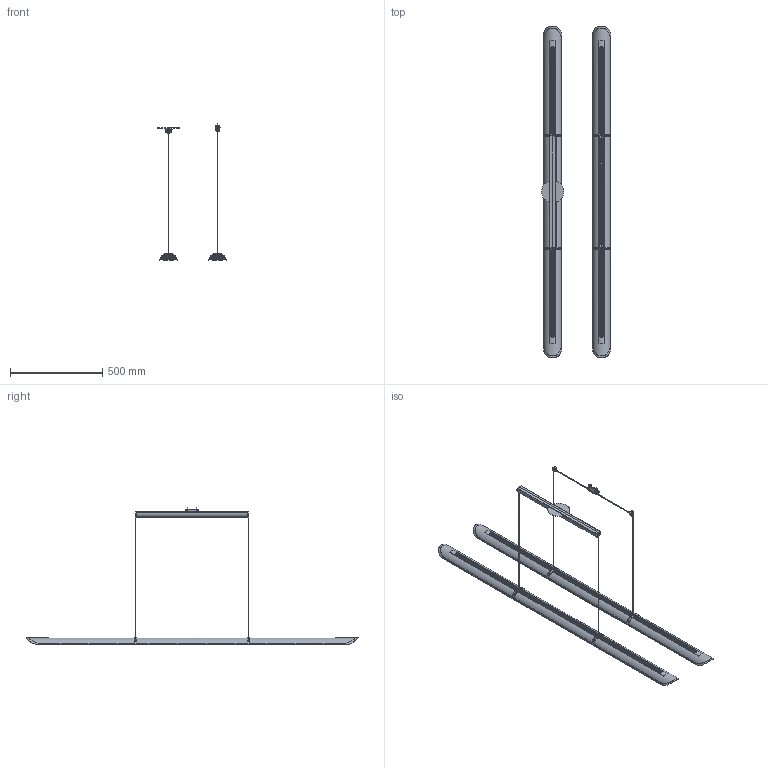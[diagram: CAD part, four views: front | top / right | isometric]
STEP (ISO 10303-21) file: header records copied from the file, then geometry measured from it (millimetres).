
FILE_DESCRIPTION(/* description */ (''),/* implementation_level */ '2;1');
FILE_NAME(/* name */ 'lani18',/* time_stamp */ '2025-09-01T10:36:18-03:00',/* author */ (''),/* organization */ (''),/* preprocessor_version */ 'ST-DEVELOPER v19.2',/* originating_system */ 'Rhino 8.22',/* authorisation */ '');
FILE_SCHEMA (('CONFIG_CONTROL_DESIGN'));
Products named in the file (1): Document
Bounding box: 373.79 x 1794.88 x 741 mm (x, y, z)
Volume: 7999283 mm3; surface area: 2615355 mm2
Topology: 21 solids, 23 shells, 1730 faces, 4978 edges, 3290 vertices
Faces by surface type: bspline 1462, plane 170, cylinder 98
Entity records: 86847 total; most frequent: CARTESIAN_POINT 58408, ORIENTED_EDGE 9912, EDGE_CURVE 4960, VERTEX_POINT 3274, B_SPLINE_CURVE_WITH_KNOTS 3057, EDGE_LOOP 1742, ADVANCED_FACE 1730, FACE_OUTER_BOUND 1730
